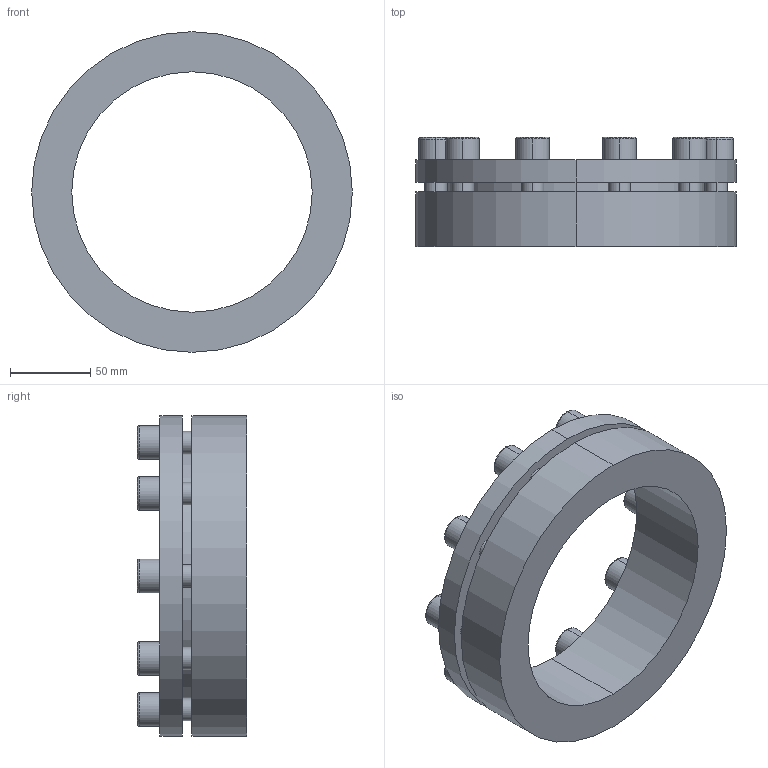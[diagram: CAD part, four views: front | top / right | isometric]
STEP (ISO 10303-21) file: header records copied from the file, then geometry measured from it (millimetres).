
FILE_DESCRIPTION (( 'STEP AP203' ), '1' );
FILE_NAME ('PL-H3 150-200.STEP', '2021-10-23T01:10:47', ( '' ), ( '' ), 'SwSTEP 2.0', 'SolidWorks 2018', '' );
FILE_SCHEMA (( 'CONFIG_CONTROL_DESIGN' ));
Length unit declared in the file: millimetre
Products named in the file (1): PL-H3 150-200
Bounding box: 200 x 68 x 200 mm (x, y, z)
Volume: 723201.5 mm3; surface area: 120149.2 mm2
Topology: 1 solids, 1 shells, 152 faces, 364 edges, 236 vertices
Faces by surface type: plane 84, cylinder 48, torus 20
Entity records: 4545 total; most frequent: DIRECTION 806, CARTESIAN_POINT 753, ORIENTED_EDGE 728, EDGE_CURVE 364, AXIS2_PLACEMENT_3D 289, VERTEX_POINT 236, LINE 228, VECTOR 228
